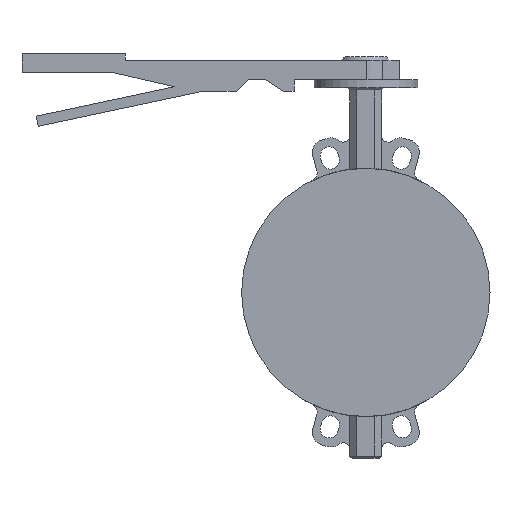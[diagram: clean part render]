
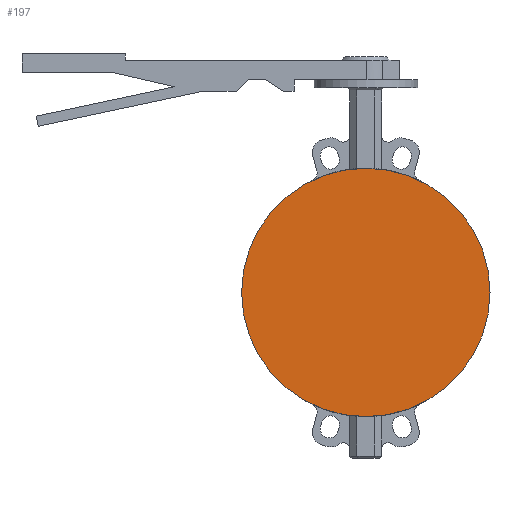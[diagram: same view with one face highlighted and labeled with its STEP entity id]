
A CAD part, left-side view. The second image highlights one B-rep face of the part: STEP entity #197.
In plain terms, the highlighted planar face has unit normal (-1, 0, 0).
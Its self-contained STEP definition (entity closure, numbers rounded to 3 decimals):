
#87=FACE_OUTER_BOUND('',#438,.T.);
#197=ADVANCED_FACE('',(#87),#317,.F.);
#317=PLANE('',#2275);
#438=EDGE_LOOP('',(#706));
#572=CIRCLE('',#2262,180.);
#706=ORIENTED_EDGE('',*,*,#1518,.T.);
#1308=VERTEX_POINT('',#3179);
#1518=EDGE_CURVE('',#1308,#1308,#572,.T.);
#2262=AXIS2_PLACEMENT_3D('',#3178,#2513,#2514);
#2275=AXIS2_PLACEMENT_3D('',#3215,#2545,#2546);
#2513=DIRECTION('',(-1.,0.,0.));
#2514=DIRECTION('',(0.,0.,1.));
#2545=DIRECTION('',(1.,0.,0.));
#2546=DIRECTION('',(0.,0.,-1.));
#3178=CARTESIAN_POINT('',(0.,0.,0.));
#3179=CARTESIAN_POINT('',(0.,0.,180.));
#3215=CARTESIAN_POINT('',(0.,0.,180.));
